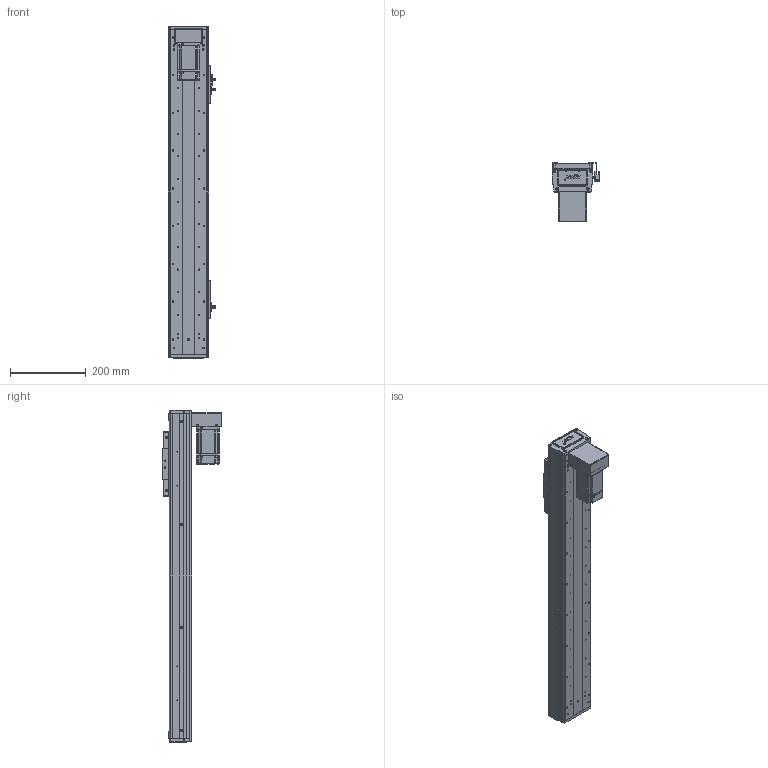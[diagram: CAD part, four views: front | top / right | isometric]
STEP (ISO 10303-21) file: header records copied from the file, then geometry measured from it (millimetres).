
FILE_DESCRIPTION (( 'STEP AP203' ), '1' );
FILE_NAME ('RY100FS-L1620-300-BK(15双轨).SLDASM_600.step', '2021-03-02T07:33:45', ( '盈信电脑' ), ( '东莞市道滘镇水果街19号' ), 'SwSTEP 2.0', 'SolidWorks 2012', '' );
FILE_SCHEMA (( 'CONFIG_CONTROL_DESIGN' ));
Length unit declared in the file: millimetre
Products named in the file (21): RY100FS-300-BK15絳寢倰第奻裔啣_600; RY100FS-300-BK15絳寢倰第菁釱_600; RY100F-滅鳥裔啣; RY100FS-300-BK15邧寢祥凄詩湍_600; 棠沺沭; RY100FS-双轨铝滑块(上板）; 1; RY100FS-L1620-300-BK(15邧寢).SLDASM_600; 蚥薯蝶紫輸; RY100FS-15邧寢狟殏萇儂欶; 滅袉蝶18-15; RY100FS-15双轨下折钢带安装板; RY100F-詩湍揤踡輸; RY100FS-双轨螺母座(16丝杆）; RY100FS-15邧寢狟殏萇儂啣; 覜茼ん672; 672嫖萇羲壽假蚾釱; RY100F-綴裔啣; RY80俋离覜茼え; RY100F-詩湍揤踡謫; RY100F-詩湍幗謫粣
Assembly tree (30 placements, depth 2):
  RY100FS-L1620-300-BK(15邧寢).SLDASM_600
    RY100FS-300-BK15絳寢倰第菁釱_600
    RY100FS-300-BK15絳寢倰第奻裔啣_600  x2
    RY100FS-300-BK15邧寢祥凄詩湍_600
    RY100FS-双轨铝滑块(上板）
    RY100F-滅鳥裔啣
    棠沺沭  x2
    RY100F-詩湍幗謫粣
    RY100F-詩湍揤踡謫  x2
    RY100F-綴裔啣  x2
    672嫖萇羲壽假蚾釱  x2
    RY80俋离覜茼え  x2
    覜茼ん672  x3
    RY100F-詩湍揤踡輸  x2
    RY100FS-双轨螺母座(16丝杆）
    RY100FS-15邧寢狟殏萇儂啣
    RY100FS-15邧寢狟殏萇儂欶
    蚥薯蝶紫輸
    RY100FS-15双轨下折钢带安装板
    滅袉蝶18-15  x2
    1
Bounding box: 126.2 x 158.5 x 879 mm (x, y, z)
Volume: 2231462.4 mm3; surface area: 925761.9 mm2
Topology: 30 solids, 30 shells, 2261 faces, 6168 edges, 4014 vertices
Faces by surface type: plane 1095, cylinder 998, cone 132, bspline 36
Entity records: 61472 total; most frequent: CARTESIAN_POINT 12986, DIRECTION 9591, ORIENTED_EDGE 9576, EDGE_CURVE 4788, AXIS2_PLACEMENT_3D 3363, VERTEX_POINT 3152, VECTOR 2865, LINE 2865
